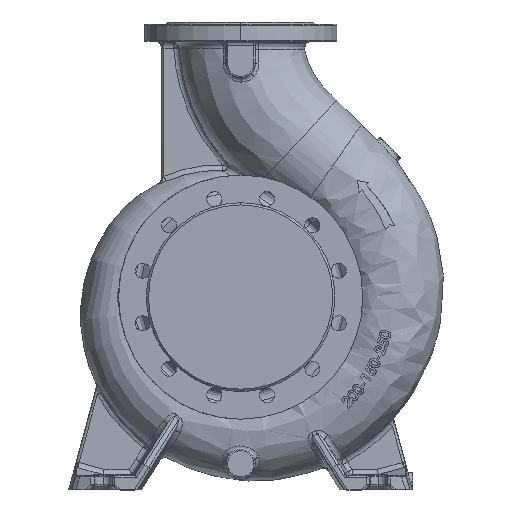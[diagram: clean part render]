
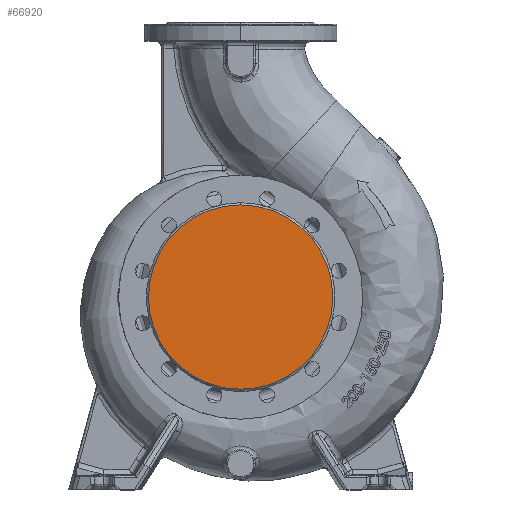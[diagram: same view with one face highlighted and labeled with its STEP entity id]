
A CAD part, top view. The second image highlights one B-rep face of the part: STEP entity #66920.
In plain terms, the highlighted planar face has unit normal (0, 0, 1).
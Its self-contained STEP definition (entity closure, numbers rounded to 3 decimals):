
#1479 = DIRECTION ( 'NONE',  ( 0., 1., 0. ) ) ;
#5338 = DIRECTION ( 'NONE',  ( 0., 1., 0. ) ) ;
#16408 = CARTESIAN_POINT ( 'NONE',  ( 0., 0., 160. ) ) ;
#17411 = DIRECTION ( 'NONE',  ( 0., 0., -1. ) ) ;
#18465 = CARTESIAN_POINT ( 'NONE',  ( 0., 0., 160. ) ) ;
#19389 = AXIS2_PLACEMENT_3D ( 'NONE', #18465, #17411, #5338 ) ;
#22039 = VERTEX_POINT ( 'NONE', #62607 ) ;
#24089 = CARTESIAN_POINT ( 'NONE',  ( 0., 0., 160. ) ) ;
#24600 = DIRECTION ( 'NONE',  ( 0., 0., -1. ) ) ;
#25234 = VERTEX_POINT ( 'NONE', #119848 ) ;
#25626 = PLANE ( 'NONE',  #29200 ) ;
#28503 = DIRECTION ( 'NONE',  ( 0., 1., 0. ) ) ;
#28559 = EDGE_LOOP ( 'NONE', ( #108059, #125749 ) ) ;
#29200 = AXIS2_PLACEMENT_3D ( 'NONE', #24089, #24600, #1479 ) ;
#47438 = FACE_OUTER_BOUND ( 'NONE', #28559, .T. ) ;
#53453 = EDGE_CURVE ( 'NONE', #22039, #25234, #79581, .T. ) ;
#54498 = EDGE_CURVE ( 'NONE', #25234, #22039, #94186, .T. ) ;
#62607 = CARTESIAN_POINT ( 'NONE',  ( 0., -134., 160. ) ) ;
#64635 = DIRECTION ( 'NONE',  ( 0., 0., -1. ) ) ;
#66920 = ADVANCED_FACE ( 'NONE', ( #47438 ), #25626, .F. ) ;
#79494 = AXIS2_PLACEMENT_3D ( 'NONE', #16408, #64635, #28503 ) ;
#79581 = CIRCLE ( 'NONE', #79494, 134. ) ;
#94186 = CIRCLE ( 'NONE', #19389, 134. ) ;
#108059 = ORIENTED_EDGE ( 'NONE', *, *, #54498, .F. ) ;
#119848 = CARTESIAN_POINT ( 'NONE',  ( 0., 134., 160. ) ) ;
#125749 = ORIENTED_EDGE ( 'NONE', *, *, #53453, .F. ) ;
